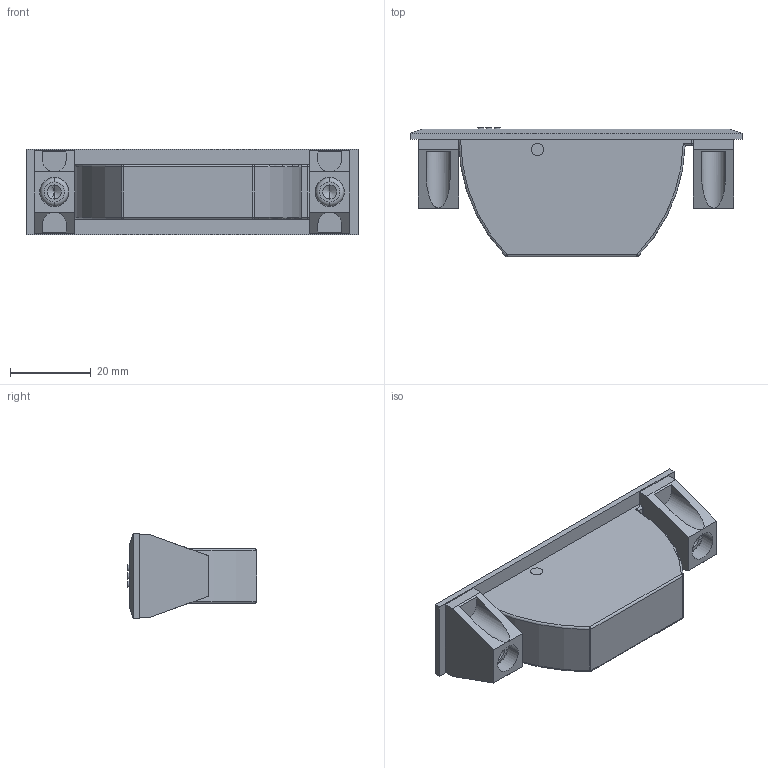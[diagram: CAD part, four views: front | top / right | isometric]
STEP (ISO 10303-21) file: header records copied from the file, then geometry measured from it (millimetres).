
FILE_DESCRIPTION (( 'STEP AP203' ), '1' );
FILE_NAME ('SK4-016B - ¸±±¾.STEP', '2018-08-15T03:30:28', ( 'admin' ), ( 'Microsoft' ), 'SwSTEP 2.0', 'SolidWorks 2015', '' );
FILE_SCHEMA (( 'CONFIG_CONTROL_DESIGN' ));
Length unit declared in the file: millimetre
Products named in the file (5): SK4-016B 囀; SK4-016B 种隊; SK4-016B揤褐; SK4-016B - 萵掛; SK4-016B
Assembly tree (5 placements, depth 2):
  SK4-016B - 萵掛
    SK4-016B
    SK4-016B 囀
    SK4-016B 种隊
    SK4-016B揤褐  x2
Bounding box: 82 x 32 x 21 mm (x, y, z)
Volume: 16981.2 mm3; surface area: 19490.5 mm2
Topology: 5 solids, 5 shells, 339 faces, 876 edges, 560 vertices
Faces by surface type: plane 152, cylinder 151, torus 26, sphere 6, cone 4
Entity records: 10363 total; most frequent: DIRECTION 1816, CARTESIAN_POINT 1705, ORIENTED_EDGE 1640, EDGE_CURVE 820, AXIS2_PLACEMENT_3D 673, VERTEX_POINT 530, LINE 470, VECTOR 470
